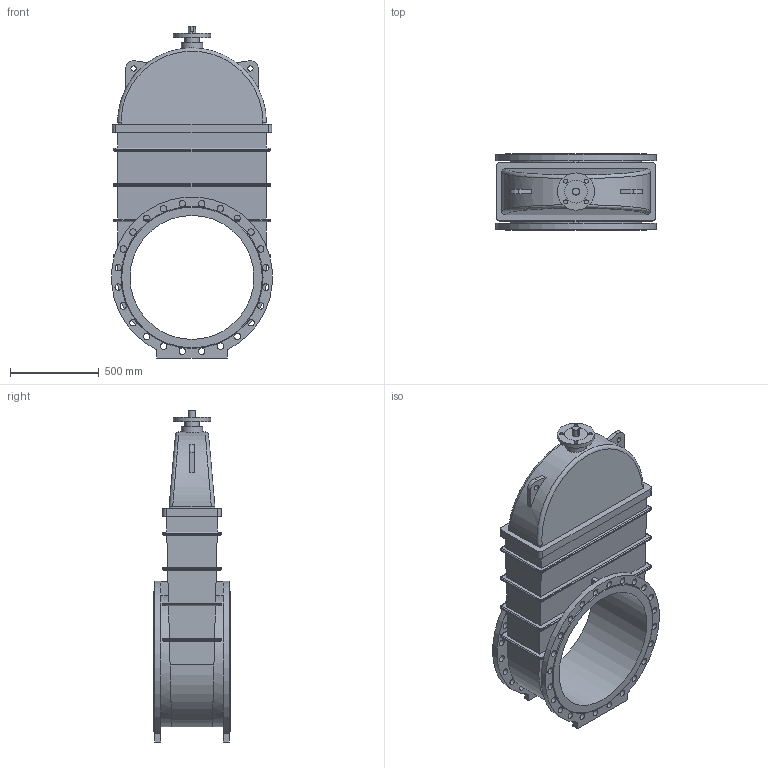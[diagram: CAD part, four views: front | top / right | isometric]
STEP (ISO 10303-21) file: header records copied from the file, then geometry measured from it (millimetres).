
FILE_DESCRIPTION(('STEP AP203'), '1');
FILE_NAME('Çàäâèæêà 47GVA.Z DN700 PN10_PN16 áåç èñïîëíèò. ìåõ.', '', ('UNSPECIFIED'), ('UNSPECIFIED'), 'ASCON STEP Converter 1.6', 'ASCON Math Kernel', '');
FILE_SCHEMA(('CONFIG_CONTROL_DESIGN'));
Length unit declared in the file: millimetre
Bounding box: 907.39 x 430 x 1875 mm (x, y, z)
Volume: 258097724 mm3; surface area: 5849500.4 mm2
Topology: 1 solids, 1 shells, 288 faces, 728 edges, 462 vertices
Faces by surface type: cylinder 141, plane 111, bspline 34, cone 2
Full cylindrical faces by diameter (mm): 22 x4, 30 x2, 37 x48, 40 x1, 80 x1, 120 x1, 130 x1, 210 x1, 700 x1
Entity records: 14692 total; most frequent: CARTESIAN_POINT 5680, ORIENTED_EDGE 1332, DIRECTION 1291, EDGE_CURVE 666, AXIS2_PLACEMENT_3D 484, EDGE_LOOP 480, VERTEX_POINT 462, FACE_BOUND 357
